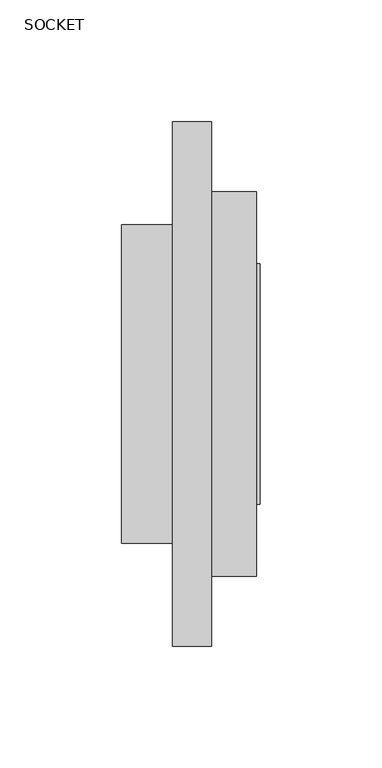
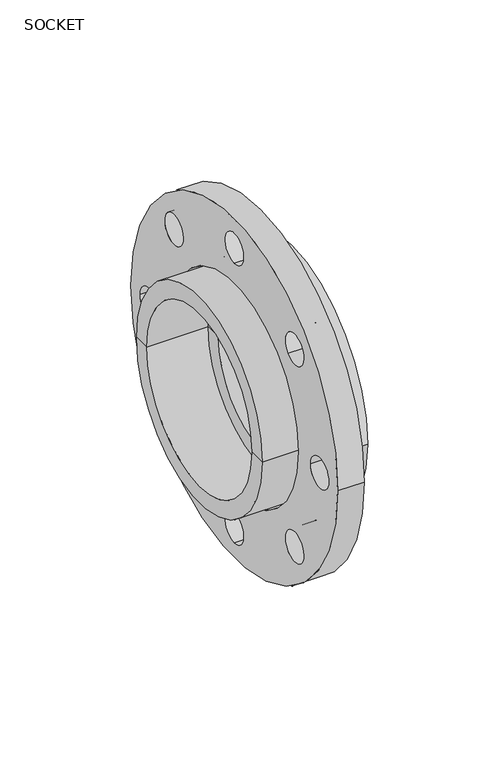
"""IFC4 building model written with IfcOpenShell, lengths in millimetres: valve geometry, Aquatherm - Flange Adapter Socket : SOCKET."""

import ifcopenshell
import ifcopenshell.guid

model = None  # the IFC model being written
_history = None  # IfcOwnerHistory: only IFC2X3 demands one
_inside = {}  # id of a spatial element -> (the spatial element, [elements in it])
_under = {}  # id of a project, library or spatial element -> (it, [spatial elements below it])
_declared = {}  # id of a project -> (the project, [libraries it declares])
_typed = {}  # id of a type object -> (the type object, [elements of that type])
_made_of = {}  # id of a material, layer set ... -> (it, [elements and type objects made of it])


def new_model(schema):
    """Start an empty IFC model of exactly this schema.

    Asked for "IFC4X3", IfcOpenShell would pick the latest addendum, in which some entities
    have other attributes; the version numbers below select the first issue.
    IFC2X3 requires an IfcOwnerHistory on every rooted entity: one is made here for all.
    """
    global model, _history
    if schema == "IFC4X3":
        model = ifcopenshell.file(schema_version=(4, 3, 0, 0))
    else:
        model = ifcopenshell.file(schema=schema)
    _inside.clear()
    _under.clear()
    _declared.clear()
    _typed.clear()
    _made_of.clear()
    _history = None
    if model.schema == "IFC2X3":
        org = make("IfcOrganization", Name="unknown")
        user = make(
            "IfcPersonAndOrganization",
            ThePerson=make("IfcPerson", FamilyName="unknown"),
            TheOrganization=org,
        )
        app = make(
            "IfcApplication",
            ApplicationDeveloper=org,
            Version="unknown",
            ApplicationFullName="unknown",
            ApplicationIdentifier="unknown",
        )
        _history = make(
            "IfcOwnerHistory",
            OwningUser=user,
            OwningApplication=app,
            ChangeAction="ADDED",
            CreationDate=0,
        )
    return model


def make(cls, **values):
    """One entity of the class cls with the attributes given. An attribute that is None is left unset."""
    return model.create_entity(
        cls, **{name: value for name, value in values.items() if value is not None}
    )


def rooted(cls, **values):
    """An entity with a GlobalId (a new one), such as an element, a storey or a relation."""
    return make(cls, GlobalId=ifcopenshell.guid.new(), OwnerHistory=_history, **values)


def si_unit(unit_type, name, prefix=None):
    """IfcSIUnit, for example si_unit("LENGTHUNIT", "METRE", prefix="MILLI")."""
    return make("IfcSIUnit", UnitType=unit_type, Prefix=prefix, Name=name)


def assignment(units):
    """IfcUnitAssignment: the units of a project."""
    return None if units is None else make("IfcUnitAssignment", Units=units)


def point(xyz):
    """IfcCartesianPoint."""
    return None if xyz is None else make("IfcCartesianPoint", Coordinates=xyz)


def direction(xyz):
    """IfcDirection."""
    return None if xyz is None else make("IfcDirection", DirectionRatios=xyz)


def frame(location, z_axis=None, x_axis=None):
    """IfcAxis2Placement3D, a coordinate frame: its origin and axes. An axis left out is left unset."""
    return make(
        "IfcAxis2Placement3D",
        Location=point(location),
        Axis=direction(z_axis),
        RefDirection=direction(x_axis),
    )


def frame_2d(location, x_axis=None):
    """IfcAxis2Placement2D, a coordinate frame in the plane: its origin and x axis."""
    return make(
        "IfcAxis2Placement2D", Location=point(location), RefDirection=direction(x_axis)
    )


def origin():
    """The frame at (0, 0, 0) with its axes left unset."""
    return frame((0.0, 0.0, 0.0))


def origin_2d():
    """The frame at (0, 0) in the plane with its x axis left unset."""
    return frame_2d((0.0, 0.0))


def place(relative_to, where):
    """IfcLocalPlacement: puts the frame where relative to a parent placement (None: the world)."""
    return make(
        "IfcLocalPlacement", PlacementRelTo=relative_to, RelativePlacement=where
    )


def context(
    kind, dimensions, precision=None, world=None, true_north=None, identifier=None
):
    """IfcGeometricRepresentationContext, for example the 3D "Model" context."""
    return make(
        "IfcGeometricRepresentationContext",
        ContextIdentifier=identifier,
        ContextType=kind,
        CoordinateSpaceDimension=dimensions,
        Precision=precision,
        WorldCoordinateSystem=world,
        TrueNorth=true_north,
    )


def project(units=None, contexts=None):
    """IfcProject with its units and contexts."""
    return rooted(
        "IfcProject",
        Name="project",
        RepresentationContexts=contexts,
        UnitsInContext=assignment(units),
    )


def spatial(cls, under=None, at=None, **own):
    """A site, building, storey or space (cls), placed at a placement, below another one or the project."""
    s = rooted(cls, ObjectPlacement=at, **own)
    if under is not None:
        _under.setdefault(under.id(), (under, []))[1].append(s)
    return s


def polyline(points):
    """IfcPolyline through the points."""
    return make("IfcPolyline", Points=[point(p) for p in points])


def circle_curve(where, radius):
    """IfcCircle in the frame where."""
    return make("IfcCircle", Position=where, Radius=radius)


def trimmed(basis, trim1, trim2, sense, master):
    """IfcTrimmedCurve: the piece of a basis curve between two trims."""
    return make(
        "IfcTrimmedCurve",
        BasisCurve=basis,
        Trim1=trim1,
        Trim2=trim2,
        SenseAgreement=sense,
        MasterRepresentation=master,
    )


def segment(curve, same_sense, transition):
    """IfcCompositeCurveSegment."""
    return make(
        "IfcCompositeCurveSegment",
        Transition=transition,
        SameSense=same_sense,
        ParentCurve=curve,
    )


def composite_curve(segments, self_intersect=None):
    """IfcCompositeCurve: segments joined end to end."""
    return make("IfcCompositeCurve", Segments=segments, SelfIntersect=self_intersect)


def outline(outer, holes=None, kind="AREA"):
    """IfcArbitraryClosedProfileDef: a profile drawn as a closed curve; with holes, ...WithVoids."""
    if holes is None:
        return make("IfcArbitraryClosedProfileDef", ProfileType=kind, OuterCurve=outer)
    return make(
        "IfcArbitraryProfileDefWithVoids",
        ProfileType=kind,
        OuterCurve=outer,
        InnerCurves=holes,
    )


def extrude(swept, where, along, depth):
    """IfcExtrudedAreaSolid: the profile swept, set in the frame where, extruded along a direction by depth."""
    return make(
        "IfcExtrudedAreaSolid",
        SweptArea=swept,
        Position=where,
        ExtrudedDirection=direction(along),
        Depth=depth,
    )


def shape(context_of_items, identifier, shape_type, items):
    """IfcShapeRepresentation: the items that make up one representation, for example the "Body"."""
    return make(
        "IfcShapeRepresentation",
        ContextOfItems=context_of_items,
        RepresentationIdentifier=identifier,
        RepresentationType=shape_type,
        Items=items,
    )


def source(mapping_origin, context_of_items, identifier, shape_type, items):
    """IfcRepresentationMap: a shape defined once, which mapped items show again and again."""
    return make(
        "IfcRepresentationMap",
        MappingOrigin=mapping_origin,
        MappedRepresentation=shape(context_of_items, identifier, shape_type, items),
    )


def transform(
    local_origin,
    x_axis=None,
    y_axis=None,
    z_axis=None,
    scale=None,
    scale2=None,
    scale3=None,
    uniform=True,
):
    """IfcCartesianTransformationOperator3D, or its non-uniform kind. x_axis, y_axis, z_axis: its Axis1, 2, 3."""
    if uniform:
        return make(
            "IfcCartesianTransformationOperator3D",
            Axis1=direction(x_axis),
            Axis2=direction(y_axis),
            LocalOrigin=point(local_origin),
            Scale=scale,
            Axis3=direction(z_axis),
        )
    return make(
        "IfcCartesianTransformationOperator3DnonUniform",
        Axis1=direction(x_axis),
        Axis2=direction(y_axis),
        LocalOrigin=point(local_origin),
        Scale=scale,
        Axis3=direction(z_axis),
        Scale2=scale2,
        Scale3=scale3,
    )


def mapped(mapping_source, mapping_target):
    """IfcMappedItem: shows the shape of a source again, moved by a transform."""
    return make(
        "IfcMappedItem", MappingSource=mapping_source, MappingTarget=mapping_target
    )


def made_of(thing, what):
    """Note that an element or type object is made of a material, layer set ...; save() writes the relation."""
    if what is not None:
        _made_of.setdefault(what.id(), (what, []))[1].append(thing)
    return thing


def element(
    cls,
    number,
    at=None,
    inside=None,
    cuts=None,
    type_object=None,
    material=None,
    context=None,
    identifier="Body",
    shape_type=None,
    held_by="IfcProductDefinitionShape",
    body=None,
    shapes=None,
    **own,
):
    """One element of the class cls, such as IfcWall. Its Tag is "e" and its number.

    at: its placement. inside: the storey or other place that contains it. cuts: it is an
    opening in that element (IfcRelVoidsElement). A single representation is given by context,
    identifier, shape_type and body (its items); several are given by shapes. held_by: the class
    of the entity that holds the representations. save() writes the other relations.
    """
    e = rooted(cls, Tag="e%d" % number, ObjectPlacement=at, **own)
    if body is not None:
        shapes = [shape(context, identifier, shape_type, body)]
    if shapes is not None:
        e.Representation = make(held_by, Representations=shapes)
    if inside is not None:
        _inside.setdefault(inside.id(), (inside, []))[1].append(e)
    if cuts is not None:
        rooted(
            "IfcRelVoidsElement", RelatingBuildingElement=cuts, RelatedOpeningElement=e
        )
    if type_object is not None:
        _typed.setdefault(type_object.id(), (type_object, []))[1].append(e)
    return made_of(e, material)


def aggregate(whole, parts):
    """IfcRelAggregates: a whole, such as a stair, and the parts it consists of."""
    return rooted("IfcRelAggregates", RelatingObject=whole, RelatedObjects=parts)


def save(model, path):
    """Write the relations noted so far, then the file.

    IfcRelAggregates (storeys below a building ...), IfcRelContainedInSpatialStructure (elements
    in a storey), IfcRelDefinesByType, IfcRelAssociatesMaterial and IfcRelDeclares: one each for
    every whole, place, type object, material and project.
    """
    for whole, parts in _under.values():
        aggregate(whole, parts)
    for where, things in _inside.values():
        rooted(
            "IfcRelContainedInSpatialStructure",
            RelatedElements=things,
            RelatingStructure=where,
        )
    for kind, things in _typed.values():
        rooted("IfcRelDefinesByType", RelatedObjects=things, RelatingType=kind)
    for what, things in _made_of.values():
        rooted("IfcRelAssociatesMaterial", RelatedObjects=things, RelatingMaterial=what)
    for by, libraries in _declared.values():
        rooted("IfcRelDeclares", RelatingContext=by, RelatedDefinitions=libraries)
    model.write(path)


def plane_surface(at):
    """IfcPlane: the flat surface through the origin of the frame at, square to its z axis."""
    return make("IfcPlane", Position=at)


def cylinder_surface(at, radius):
    """IfcCylindricalSurface: all points at the distance radius from the z axis of the frame at."""
    return make("IfcCylindricalSurface", Position=at, Radius=radius)


def revolved_surface(curve, axis_point, axis_direction):
    """IfcSurfaceOfRevolution: the curve turned about the line through axis_point along axis_direction."""
    return make(
        "IfcSurfaceOfRevolution",
        SweptCurve=make("IfcArbitraryOpenProfileDef", ProfileType="CURVE", Curve=curve),
        AxisPosition=make("IfcAxis1Placement", Location=point(axis_point), Axis=direction(axis_direction)),
    )


def advanced_brep(points, edges, surfaces, faces):
    """IfcAdvancedBrep: a solid bounded by faces that lie on surfaces and meet in shared edges.

    An edge is (start, end): straight between two places in points (the first is 0);
    or (start, end, curve); or (start, end, curve, False) where it runs against its curve.
    A face is (place in surfaces, loops), or (place, loops, False) where it looks against
    its surface's normal. A loop lists edges by number (the first is 1), with a minus sign
    where the edge is run from its end to its start. The first loop is the outer one.
    """
    corners = [point(p) for p in points]
    vertices = [make("IfcVertexPoint", VertexGeometry=c) for c in corners]
    made = []
    for start, end, *more in edges:
        made.append(
            make(
                "IfcEdgeCurve",
                EdgeStart=vertices[start],
                EdgeEnd=vertices[end],
                EdgeGeometry=more[0] if more else make("IfcPolyline", Points=[corners[start], corners[end]]),
                SameSense=more[1] if len(more) > 1 else True,
            )
        )
    hull = []
    for where, loops, *sense in faces:
        bounds = []
        for j, loop in enumerate(loops):
            ring = [make("IfcOrientedEdge", EdgeElement=made[abs(k) - 1], Orientation=k > 0) for k in loop]
            bounds.append(
                make(
                    "IfcFaceOuterBound" if j == 0 else "IfcFaceBound",
                    Bound=make("IfcEdgeLoop", EdgeList=ring),
                    Orientation=True,
                )
            )
        hull.append(make("IfcAdvancedFace", Bounds=bounds, FaceSurface=surfaces[where], SameSense=sense[0] if sense else True))
    return make("IfcAdvancedBrep", Outer=make("IfcClosedShell", CfsFaces=hull))


def socket_bfafb5b7(model_context):
    return source(origin(), model_context, "Body", "SolidModel", [
        extrude(outline(composite_curve([segment(trimmed(circle_curve(origin_2d(), 107.95), [point((107.95, 0.0))], [point((-107.95, 0.0))], False, "CARTESIAN"), True, "CONTINUOUS"), segment(trimmed(circle_curve(origin_2d(), 107.95), [point((-107.95, 0.0))], [point((107.95, 0.0))], False, "CARTESIAN"), True, "CONTINUOUS")], self_intersect=False), holes=[composite_curve([segment(trimmed(circle_curve(origin_2d(), 66.675), [point((66.675, 0.0))], [point((-66.675, 0.0))], True, "CARTESIAN"), True, "CONTINUOUS"), segment(trimmed(circle_curve(origin_2d(), 66.675), [point((-66.675, 0.0))], [point((66.675, 0.0))], True, "CARTESIAN"), True, "CONTINUOUS")], self_intersect=False), composite_curve([segment(trimmed(circle_curve(frame_2d((-88.9, 0.0)), 9.525), [point((-79.375, 0.0))], [point((-98.425, 0.0))], True, "CARTESIAN"), True, "CONTINUOUS"), segment(trimmed(circle_curve(frame_2d((-88.9, 0.0)), 9.525), [point((-98.425, 0.0))], [point((-79.375, 0.0))], True, "CARTESIAN"), True, "CONTINUOUS")], self_intersect=False), composite_curve([segment(trimmed(circle_curve(frame_2d((-62.8617928, -62.8617928)), 9.525), [point((-56.1266008, -56.1266008))], [point((-69.5969849, -69.5969849))], True, "CARTESIAN"), True, "CONTINUOUS"), segment(trimmed(circle_curve(frame_2d((-62.8617928, -62.8617928)), 9.525), [point((-69.5969849, -69.5969849))], [point((-56.1266008, -56.1266008))], True, "CARTESIAN"), True, "CONTINUOUS")], self_intersect=False), composite_curve([segment(trimmed(circle_curve(frame_2d((-62.8617928, 62.8617928)), 9.525), [point((-56.1266008, 56.1266008))], [point((-69.5969849, 69.5969849))], True, "CARTESIAN"), True, "CONTINUOUS"), segment(trimmed(circle_curve(frame_2d((-62.8617928, 62.8617928)), 9.525), [point((-69.5969849, 69.5969849))], [point((-56.1266008, 56.1266008))], True, "CARTESIAN"), True, "CONTINUOUS")], self_intersect=False), composite_curve([segment(trimmed(circle_curve(frame_2d((0.0, 88.9)), 9.525), [point((0.0, 79.375))], [point((0.0, 98.425))], True, "CARTESIAN"), True, "CONTINUOUS"), segment(trimmed(circle_curve(frame_2d((0.0, 88.9)), 9.525), [point((0.0, 98.425))], [point((0.0, 79.375))], True, "CARTESIAN"), True, "CONTINUOUS")], self_intersect=False), composite_curve([segment(trimmed(circle_curve(frame_2d((62.8617928, 62.8617928)), 9.525), [point((56.1266008, 56.1266008))], [point((69.5969849, 69.5969849))], True, "CARTESIAN"), True, "CONTINUOUS"), segment(trimmed(circle_curve(frame_2d((62.8617928, 62.8617928)), 9.525), [point((69.5969849, 69.5969849))], [point((56.1266008, 56.1266008))], True, "CARTESIAN"), True, "CONTINUOUS")], self_intersect=False), composite_curve([segment(trimmed(circle_curve(frame_2d((88.9, 0.0)), 9.525), [point((79.375, 0.0))], [point((98.425, 0.0))], True, "CARTESIAN"), True, "CONTINUOUS"), segment(trimmed(circle_curve(frame_2d((88.9, 0.0)), 9.525), [point((98.425, 0.0))], [point((79.375, 0.0))], True, "CARTESIAN"), True, "CONTINUOUS")], self_intersect=False), composite_curve([segment(trimmed(circle_curve(frame_2d((62.8617928, -62.8617928)), 9.525), [point((56.1266008, -56.1266008))], [point((69.5969849, -69.5969849))], True, "CARTESIAN"), True, "CONTINUOUS"), segment(trimmed(circle_curve(frame_2d((62.8617928, -62.8617928)), 9.525), [point((69.5969849, -69.5969849))], [point((56.1266008, -56.1266008))], True, "CARTESIAN"), True, "CONTINUOUS")], self_intersect=False), composite_curve([segment(trimmed(circle_curve(frame_2d((0.0, -88.9)), 9.525), [point((0.0, -79.375))], [point((0.0, -98.425))], True, "CARTESIAN"), True, "CONTINUOUS"), segment(trimmed(circle_curve(frame_2d((0.0, -88.9)), 9.525), [point((0.0, -98.425))], [point((0.0, -79.375))], True, "CARTESIAN"), True, "CONTINUOUS")], self_intersect=False)]), frame((-16.002, 0.0, 0.0), z_axis=(1.0, 0.0, 0.0), x_axis=(0.0, 1.0, 0.0)), (0.0, 0.0, 1.0), 16.002),
        advanced_brep(
        [(20.066, -44.45, 0.0), (20.066, -49.53, 0.0), (20.066, 49.53, 0.0), (20.066, 44.45, 0.0), (0.0, -44.45, 0.0), (0.0, 44.45, 0.0), (0.0, -54.991, 0.0), (0.0, 54.991, 0.0), (-37.084, -54.991, 0.0), (-37.084, 54.991, 0.0), (-37.084, -65.532, 0.0), (-37.084, 65.532, 0.0), (0.0, -65.532, 0.0), (0.0, 65.532, 0.0), (0.0, -78.994, 0.0), (0.0, 78.994, 0.0), (18.542, -78.994, 0.0), (18.542, 78.994, 0.0), (18.542, -49.53, 0.0), (18.542, 49.53, 0.0)],
        [
            (0, 1),
            (1, 2, circle_curve(frame((20.066, 0.0, 0.0), z_axis=(1.0, 0.0, 0.0), x_axis=(0.0, 1.0, 0.0)), 49.53)),
            (2, 3),
            (3, 0, circle_curve(frame((20.066, 0.0, 0.0), z_axis=(-1.0, 0.0, 0.0), x_axis=(0.0, 1.0, 0.0)), 44.45)),
            (2, 1, circle_curve(frame((20.066, 0.0, 0.0), z_axis=(1.0, 0.0, 0.0), x_axis=(0.0, 1.0, 0.0)), 49.53)),
            (0, 3, circle_curve(frame((20.066, 0.0, 0.0), z_axis=(-1.0, 0.0, 0.0), x_axis=(0.0, 1.0, 0.0)), 44.45)),
            (4, 0),
            (3, 5),
            (5, 4, circle_curve(frame((0.0, 0.0, 0.0), z_axis=(-1.0, 0.0, 0.0), x_axis=(0.0, 1.0, 0.0)), 44.45)),
            (4, 5, circle_curve(frame((0.0, 0.0, 0.0), z_axis=(-1.0, 0.0, 0.0), x_axis=(0.0, 1.0, 0.0)), 44.45)),
            (6, 4),
            (5, 7),
            (7, 6, circle_curve(frame((0.0, 0.0, 0.0), z_axis=(-1.0, 0.0, 0.0), x_axis=(0.0, 1.0, 0.0)), 54.991)),
            (6, 7, circle_curve(frame((0.0, 0.0, 0.0), z_axis=(-1.0, 0.0, 0.0), x_axis=(0.0, 1.0, 0.0)), 54.991)),
            (8, 6),
            (7, 9),
            (9, 8, circle_curve(frame((-37.084, 0.0, 0.0), z_axis=(-1.0, 0.0, 0.0), x_axis=(0.0, 1.0, 0.0)), 54.991)),
            (8, 9, circle_curve(frame((-37.084, 0.0, 0.0), z_axis=(-1.0, 0.0, 0.0), x_axis=(0.0, 1.0, 0.0)), 54.991)),
            (10, 8),
            (9, 11),
            (11, 10, circle_curve(frame((-37.084, 0.0, 0.0), z_axis=(-1.0, 0.0, 0.0), x_axis=(0.0, 1.0, 0.0)), 65.532)),
            (10, 11, circle_curve(frame((-37.084, 0.0, 0.0), z_axis=(-1.0, 0.0, 0.0), x_axis=(0.0, 1.0, 0.0)), 65.532)),
            (12, 10),
            (11, 13),
            (13, 12, circle_curve(frame((0.0, 0.0, 0.0), z_axis=(-1.0, 0.0, 0.0), x_axis=(0.0, 1.0, 0.0)), 65.532)),
            (12, 13, circle_curve(frame((0.0, 0.0, 0.0), z_axis=(-1.0, 0.0, 0.0), x_axis=(0.0, 1.0, 0.0)), 65.532)),
            (14, 12),
            (13, 15),
            (15, 14, circle_curve(frame((0.0, 0.0, 0.0), z_axis=(-1.0, 0.0, 0.0), x_axis=(0.0, 1.0, 0.0)), 78.994)),
            (14, 15, circle_curve(frame((0.0, 0.0, 0.0), z_axis=(-1.0, 0.0, 0.0), x_axis=(0.0, 1.0, 0.0)), 78.994)),
            (16, 14),
            (15, 17),
            (17, 16, circle_curve(frame((18.542, 0.0, 0.0), z_axis=(-1.0, 0.0, 0.0), x_axis=(0.0, 1.0, 0.0)), 78.994)),
            (16, 17, circle_curve(frame((18.542, 0.0, 0.0), z_axis=(-1.0, 0.0, 0.0), x_axis=(0.0, 1.0, 0.0)), 78.994)),
            (18, 16),
            (17, 19),
            (19, 18, circle_curve(frame((18.542, 0.0, 0.0), z_axis=(-1.0, 0.0, 0.0), x_axis=(0.0, 1.0, 0.0)), 49.53)),
            (18, 19, circle_curve(frame((18.542, 0.0, 0.0), z_axis=(-1.0, 0.0, 0.0), x_axis=(0.0, 1.0, 0.0)), 49.53)),
            (1, 18),
            (19, 2),
        ],
        [
            plane_surface(frame((20.066, 0.0, 0.0), z_axis=(1.0, 0.0, 0.0), x_axis=(0.0, 1.0, 0.0))),
            revolved_surface(polyline([(20.06600000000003, 44.45, 0.0), (0.0, 44.45, 0.0)]), (1449.3611939, 0.0, 0.0), (1.0, 0.0, 0.0)),
            plane_surface(frame((0.0, 0.0, 0.0), z_axis=(-1.0, 0.0, 0.0), x_axis=(0.0, 1.0, 0.0))),
            revolved_surface(polyline([(0.0, 54.991, 0.0), (-37.08400000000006, 54.991, 0.0)]), (1449.3611939, 0.0, 0.0), (1.0, 0.0, 0.0)),
            plane_surface(frame((-37.084, 0.0, 0.0), z_axis=(-1.0, 0.0, 0.0), x_axis=(0.0, 1.0, 0.0))),
            cylinder_surface(frame((1449.3611939, 0.0, 0.0), z_axis=(1.0, 0.0, 0.0), x_axis=(0.0, 1.0, 0.0)), 65.532),
            cylinder_surface(frame((1449.3611939, 0.0, 0.0), z_axis=(1.0, 0.0, 0.0), x_axis=(0.0, 1.0, 0.0)), 78.994),
            plane_surface(frame((18.542, 0.0, 0.0), z_axis=(1.0, 0.0, 0.0), x_axis=(0.0, 1.0, 0.0))),
            cylinder_surface(frame((1449.3611939, 0.0, 0.0), z_axis=(1.0, 0.0, 0.0), x_axis=(0.0, 1.0, 0.0)), 49.53),
        ],
        [
            (0, [[1, 2, 3, 4]]),
            (0, [[-3, 5, -1, 6]]),
            (1, [[7, -4, 8, 9]]),
            (1, [[-8, -6, -7, 10]]),
            (2, [[11, -9, 12, 13]]),
            (2, [[-12, -10, -11, 14]]),
            (3, [[15, -13, 16, 17]]),
            (3, [[-16, -14, -15, 18]]),
            (4, [[19, -17, 20, 21]]),
            (4, [[-20, -18, -19, 22]]),
            (5, [[23, -21, 24, 25]]),
            (5, [[-24, -22, -23, 26]]),
            (2, [[27, -25, 28, 29]]),
            (2, [[-28, -26, -27, 30]]),
            (6, [[31, -29, 32, 33]]),
            (6, [[-32, -30, -31, 34]]),
            (7, [[35, -33, 36, 37]]),
            (7, [[-36, -34, -35, 38]]),
            (8, [[39, -37, 40, -2]]),
            (8, [[-40, -38, -39, -5]]),
        ],
    ),
    ])


if __name__ == "__main__":
    model = new_model("IFC4")
    model_context = context("Model", 3, world=origin())
    ifc_project = project(units=[si_unit("LENGTHUNIT", "METRE", prefix="MILLI")], contexts=[model_context])
    site = spatial("IfcSite", under=ifc_project)
    building = spatial("IfcBuilding", under=site)
    placement = place(None, origin())
    ifc_socket_shape = socket_bfafb5b7(model_context)
    element("IfcValve", 1, ObjectType="Aquatherm - Flange Adapter Socket : SOCKET", at=placement, inside=building, context=model_context, shape_type="MappedRepresentation", body=[
        mapped(ifc_socket_shape, transform((0.0, 0.0, 0.0), x_axis=(1.0, 0.0, 0.0), y_axis=(0.0, 1.0, 0.0), z_axis=(0.0, 0.0, 1.0))),
    ])
    save(model, "model.ifc")
